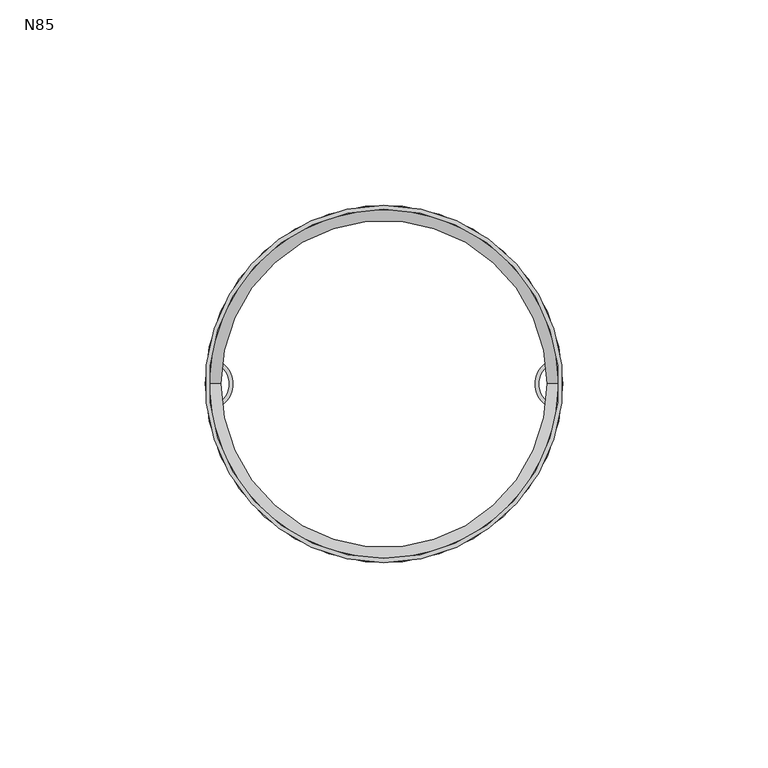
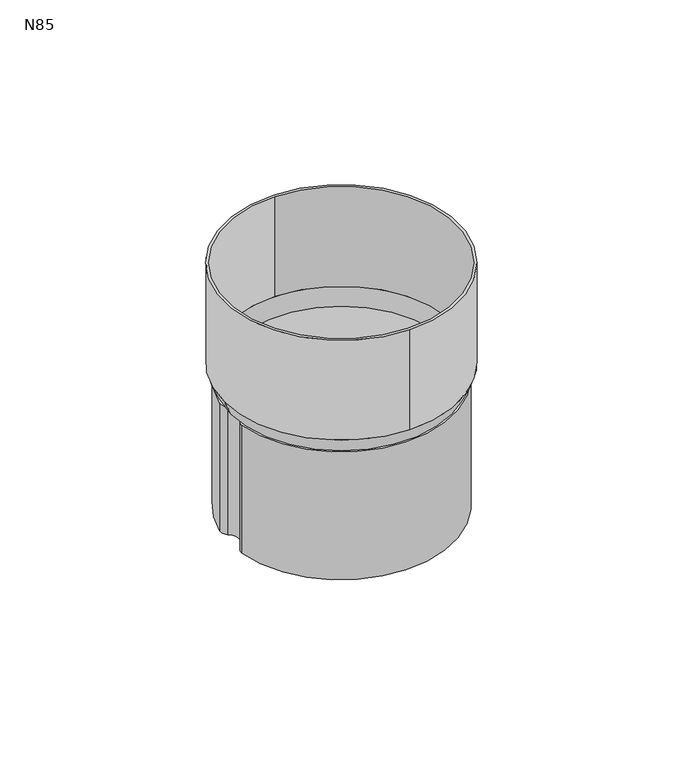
"""IFC4 building model written with IfcOpenShell, lengths in millimetres: proxy geometry, GROVIK_Downpipe_Connector : N85."""

from ifc_helpers import new_model, si_unit, point, frame, frame_2d, origin, origin_with_axes, origin_2d, place, context, project, spatial, polyline, circle_curve, trimmed, segment, composite_curve, outline, extrude, source, transform, mapped, element, save
from ifc_brep_helpers import plane_surface, revolved_surface, advanced_brep


def n85_f6647f6f(model_context):
    return source(origin(), model_context, "Body", "SolidModel", [
        extrude(outline(composite_curve([segment(trimmed(circle_curve(origin_2d(), 43.5), [point((0.0, 43.5))], [point((0.0, -43.5))], False, "CARTESIAN"), True, "CONTINUOUS"), segment(trimmed(circle_curve(origin_2d(), 43.5), [point((0.0, -43.5))], [point((0.0, 43.5))], False, "CARTESIAN"), True, "CONTINUOUS")], self_intersect=False), holes=[composite_curve([segment(trimmed(circle_curve(origin_2d(), 42.5), [point((0.0, 42.5))], [point((0.0, -42.5))], True, "CARTESIAN"), True, "CONTINUOUS"), segment(trimmed(circle_curve(origin_2d(), 42.5), [point((0.0, -42.5))], [point((0.0, 42.5))], True, "CARTESIAN"), True, "CONTINUOUS")], self_intersect=False)]), frame((0.0, 0.0, 6.0), z_axis=(0.0, 0.0, 1.0), x_axis=(1.0, 0.0, 0.0)), (0.0, 0.0, 1.0), 39.0),
        advanced_brep(
        [(-43.5, 0.0, 6.0), (43.5, 0.0, 6.0), (42.5, 0.0, 6.0), (-42.5, 0.0, 6.0), (-40.8, 0.0, 0.0), (40.8, 0.0, 0.0), (-39.8, 0.0, 0.0), (39.8, 0.0, 0.0)],
        [
            (0, 1, circle_curve(frame((0.0, 0.0, 6.0), z_axis=(0.0, 0.0, 1.0), x_axis=(-1.0, 0.0, 0.0)), 43.5)),
            (1, 0, circle_curve(frame((0.0, 0.0, 6.0), z_axis=(0.0, 0.0, 1.0), x_axis=(1.0, 0.0, 0.0)), 43.5)),
            (2, 3, circle_curve(frame((0.0, 0.0, 6.0), z_axis=(0.0, 0.0, -1.0), x_axis=(-1.0, 0.0, 0.0)), 42.5)),
            (3, 2, circle_curve(frame((0.0, 0.0, 6.0), z_axis=(0.0, 0.0, -1.0), x_axis=(1.0, 0.0, 0.0)), 42.5)),
            (4, 5, circle_curve(frame((0.0, 0.0, 0.0), z_axis=(0.0, 0.0, -1.0), x_axis=(1.0, 0.0, 0.0)), 40.8)),
            (5, 4, circle_curve(frame((0.0, 0.0, 0.0), z_axis=(0.0, 0.0, -1.0), x_axis=(-1.0, 0.0, 0.0)), 40.8)),
            (6, 7, circle_curve(frame((0.0, 0.0, 0.0), z_axis=(0.0, 0.0, 1.0), x_axis=(-1.0, 0.0, 0.0)), 39.8)),
            (7, 6, circle_curve(origin_with_axes(), 39.8)),
            (0, 4),
            (5, 1),
            (6, 3),
            (2, 7),
        ],
        [
            plane_surface(frame((0.0, 0.0, 6.0), z_axis=(0.0, 0.0, 1.0), x_axis=(0.0, -1.0, 0.0))),
            plane_surface(frame((0.0, 0.0, 0.0), z_axis=(0.0, 0.0, -1.0), x_axis=(0.0, -1.0, 0.0))),
            revolved_surface(polyline([(40.800000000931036, 0.0, 0.0), (43.5, 0.0, 6.0)]), (0.0, 0.0, -90.6666667), (0.0, 0.0, 1.0)),
            revolved_surface(polyline([(-40.800000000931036, 0.0, 0.0), (-43.5, 0.0, 6.0)]), (0.0, 0.0, -90.6666667), (0.0, 0.0, 1.0)),
            revolved_surface(polyline([(-42.5, 0.0, 6.0), (-39.79999999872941, 0.0, 0.0)]), (0.0, 0.0, -88.4444444), (0.0, 0.0, 1.0)),
        ],
        [
            (0, [[1, 2], [3, 4]]),
            (1, [[5, 6], [7, 8]]),
            (2, [[-1, 9, -6, 10]]),
            (3, [[-2, -10, -5, -9]]),
            (4, [[11, -3, 12, -7]]),
            (4, [[-11, -8, -12, -4]]),
        ],
    ),
        extrude(outline(composite_curve([segment(trimmed(circle_curve(origin_2d(), 41.5), [point((-40.8761148, 7.1689075))], [point((40.8761148, 7.1689075))], False, "CARTESIAN"), True, "CONTINUOUS"), segment(trimmed(circle_curve(frame_2d((37.8351931, 6.6504209)), 3.0848069), [point((40.8761148, 7.1689075))], [point((39.7139163, 4.2037022))], False, "CARTESIAN"), True, "CONTINUOUS"), segment(trimmed(circle_curve(frame_2d((42.9417465, 0.0)), 5.3), [point((39.7139163, 4.2037022))], [point((39.716706, -4.2058428))], True, "CARTESIAN"), True, "CONTINUOUS"), segment(trimmed(circle_curve(frame_2d((37.8451476, -6.6465812)), 3.0757007), [point((39.716706, -4.2058428))], [point((40.8706496, -7.2))], False, "CARTESIAN"), True, "CONTINUOUS"), segment(trimmed(circle_curve(origin_2d(), 41.5), [point((40.8706496, -7.2))], [point((-40.8706496, -7.2))], False, "CARTESIAN"), True, "CONTINUOUS"), segment(trimmed(circle_curve(frame_2d((-37.8451476, -6.6465812)), 3.0757007), [point((-40.8706496, -7.2))], [point((-39.716706, -4.2058428))], False, "CARTESIAN"), True, "CONTINUOUS"), segment(trimmed(circle_curve(frame_2d((-42.9417465, 0.0)), 5.3), [point((-39.716706, -4.2058428))], [point((-39.7139163, 4.2037022))], True, "CARTESIAN"), True, "CONTINUOUS"), segment(trimmed(circle_curve(frame_2d((-37.8351931, 6.6504209)), 3.0848069), [point((-39.7139163, 4.2037022))], [point((-40.8761148, 7.1689075))], False, "CARTESIAN"), True, "CONTINUOUS")], self_intersect=False), holes=[composite_curve([segment(trimmed(circle_curve(frame_2d((-37.8351931, 6.6504209)), 2.0848069), [point((-39.8907016, 6.9987091))], [point((-39.1048917, 4.9968535))], True, "CARTESIAN"), True, "CONTINUOUS"), segment(trimmed(circle_curve(frame_2d((-42.9417465, 0.0)), 6.3), [point((-39.1048917, 4.9968535))], [point((-39.1082078, -4.999398))], False, "CARTESIAN"), True, "CONTINUOUS"), segment(trimmed(circle_curve(frame_2d((-37.8451476, -6.6465812)), 2.0757007), [point((-39.1082078, -4.999398))], [point((-39.8864342, -7.0229886))], True, "CARTESIAN"), True, "CONTINUOUS"), segment(trimmed(circle_curve(origin_2d(), 40.5), [point((-39.8864342, -7.0229886))], [point((39.8925351, -6.9882501))], True, "CARTESIAN"), True, "CONTINUOUS"), segment(trimmed(circle_curve(frame_2d((37.8451476, -6.6465812)), 2.0757007), [point((39.8925351, -6.9882501))], [point((39.1082078, -4.999398))], True, "CARTESIAN"), True, "CONTINUOUS"), segment(trimmed(circle_curve(frame_2d((42.9417465, 0.0)), 6.3), [point((39.1082078, -4.999398))], [point((39.1048917, 4.9968535))], False, "CARTESIAN"), True, "CONTINUOUS"), segment(trimmed(circle_curve(frame_2d((37.8351931, 6.6504209)), 2.0848069), [point((39.1048917, 4.9968535))], [point((39.8907016, 6.9987091))], True, "CARTESIAN"), True, "CONTINUOUS"), segment(trimmed(circle_curve(origin_2d(), 40.5), [point((39.8907016, 6.9987091))], [point((-39.8907016, 6.9987091))], True, "CARTESIAN"), True, "CONTINUOUS")], self_intersect=False)]), frame((0.0, 0.0, -50.0), z_axis=(0.0, 0.0, 1.0), x_axis=(1.0, 0.0, 0.0)), (0.0, 0.0, 1.0), 50.0),
    ])


if __name__ == "__main__":
    model = new_model("IFC4")
    model_context = context("Model", 3, world=origin())
    ifc_project = project(units=[si_unit("LENGTHUNIT", "METRE", prefix="MILLI")], contexts=[model_context])
    site = spatial("IfcSite", under=ifc_project)
    building = spatial("IfcBuilding", under=site)
    placement = place(None, origin())
    n85_shape = n85_f6647f6f(model_context)
    element("IfcBuildingElementProxy", 1, Name="GROVIK_Downpipe_Connector : N85", ObjectType="GROVIK_Downpipe_Connector : N85", at=placement, inside=building, context=model_context, shape_type="MappedRepresentation", body=[
        mapped(n85_shape, transform((0.0, 0.0, 0.0), x_axis=(1.0, 0.0, 0.0), y_axis=(0.0, 1.0, 0.0), z_axis=(0.0, 0.0, 1.0))),
    ])
    save(model, "model.ifc")
